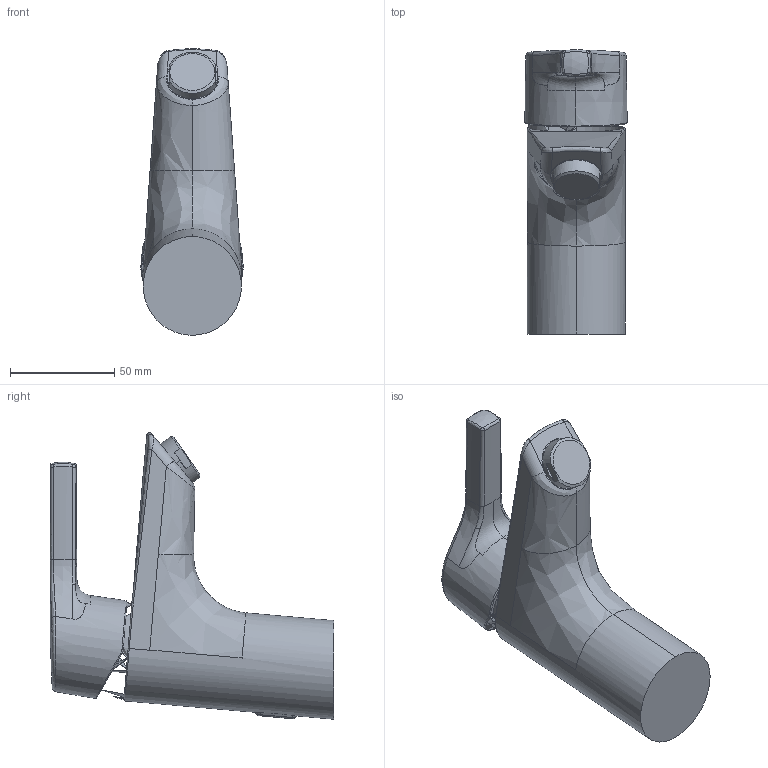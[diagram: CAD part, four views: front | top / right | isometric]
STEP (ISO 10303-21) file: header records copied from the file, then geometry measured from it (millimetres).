
FILE_DESCRIPTION (( 'STEP AP203' ), '1' );
FILE_NAME ('3910FHK(2018).STEP', '2018-04-20T09:49:23', ( '' ), ( '' ), 'SwSTEP 2.0', 'SolidWorks 2016', '' );
FILE_SCHEMA (( 'CONFIG_CONTROL_DESIGN' ));
Length unit declared in the file: millimetre
Products named in the file (1): 3910FHK(2018)
Bounding box: 48.96 x 135.9 x 137.08 mm (x, y, z)
Surface area: 92271.3 mm2
Topology: 1 solids, 1 shells, 105 faces, 289 edges, 187 vertices
Faces by surface type: bspline 58, torus 13, cylinder 13, plane 12, cone 7, sphere 2
Entity records: 11833 total; most frequent: CARTESIAN_POINT 9986, ORIENTED_EDGE 486, EDGE_CURVE 243, DIRECTION 193, B_SPLINE_CURVE_WITH_KNOTS 156, VERTEX_POINT 153, EDGE_LOOP 96, ADVANCED_FACE 94
